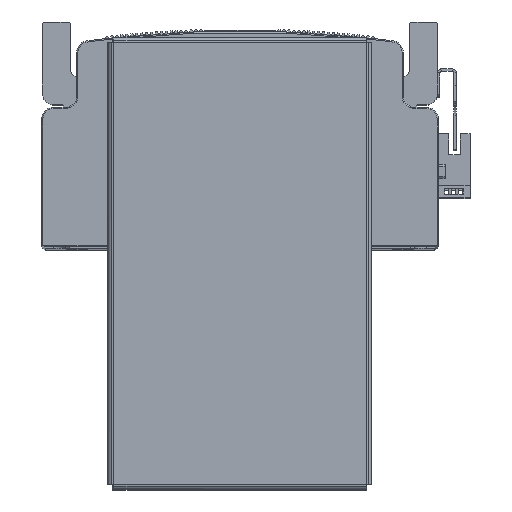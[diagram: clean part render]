
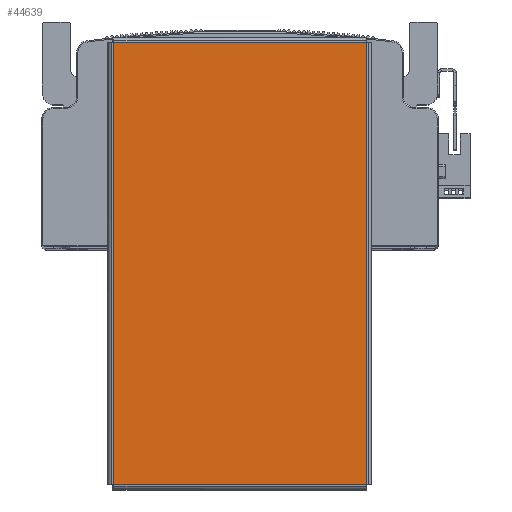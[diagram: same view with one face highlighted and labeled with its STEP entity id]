
A CAD part, top view. The second image highlights one B-rep face of the part: STEP entity #44639.
In plain terms, the highlighted planar face has unit normal (0, 0, 1) as drawn and (0, -1, 0) by its records, which use the part's own axes.
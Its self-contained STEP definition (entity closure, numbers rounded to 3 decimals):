
#1945 = EDGE_CURVE ( 'NONE', #63737, #63703, #42289, .T. ) ;
#1979 = EDGE_CURVE ( 'NONE', #63703, #63748, #42337, .T. ) ;
#1990 = EDGE_CURVE ( 'NONE', #63736, #63737, #42317, .T. ) ;
#2003 = EDGE_CURVE ( 'NONE', #63748, #63736, #42398, .T. ) ;
#5393 = CARTESIAN_POINT ( 'NONE',  ( 94.763, -1.5, 54.363 ) ) ;
#5405 = CARTESIAN_POINT ( 'NONE',  ( -94.763, -1.5, -54.363 ) ) ;
#5439 = CARTESIAN_POINT ( 'NONE',  ( 94.763, -1.5, -54.363 ) ) ;
#5448 = CARTESIAN_POINT ( 'NONE',  ( -94.763, -1.5, 54.363 ) ) ;
#6129 = AXIS2_PLACEMENT_3D ( 'NONE', #9191, #9165, #9161 ) ;
#7754 = CARTESIAN_POINT ( 'NONE',  ( 94.763, -1.5, -54.393 ) ) ;
#7776 = DIRECTION ( 'NONE',  ( 0., 0., 1. ) ) ;
#9161 = DIRECTION ( 'NONE',  ( 0., 0., 1. ) ) ;
#9165 = DIRECTION ( 'NONE',  ( 0., 1., 0. ) ) ;
#9176 = PLANE ( 'NONE',  #6129 ) ;
#9191 = CARTESIAN_POINT ( 'NONE',  ( 0., -1.5, 0. ) ) ;
#12818 = FACE_OUTER_BOUND ( 'NONE', #50659, .T. ) ;
#13689 = DIRECTION ( 'NONE',  ( -1., 0., 0. ) ) ;
#13692 = CARTESIAN_POINT ( 'NONE',  ( 94.793, -1.5, 54.363 ) ) ;
#13703 = DIRECTION ( 'NONE',  ( 1., 0., 0. ) ) ;
#13724 = CARTESIAN_POINT ( 'NONE',  ( -94.793, -1.5, -54.363 ) ) ;
#13756 = DIRECTION ( 'NONE',  ( 0., 0., -1. ) ) ;
#13812 = CARTESIAN_POINT ( 'NONE',  ( -94.763, -1.5, 54.393 ) ) ;
#40568 = ORIENTED_EDGE ( 'NONE', *, *, #1990, .T. ) ;
#40570 = ORIENTED_EDGE ( 'NONE', *, *, #1979, .T. ) ;
#40582 = ORIENTED_EDGE ( 'NONE', *, *, #2003, .T. ) ;
#40590 = ORIENTED_EDGE ( 'NONE', *, *, #1945, .T. ) ;
#42264 = VECTOR ( 'NONE', #7776, 1000. ) ;
#42289 = LINE ( 'NONE', #7754, #42264 ) ;
#42317 = LINE ( 'NONE', #13724, #42319 ) ;
#42319 = VECTOR ( 'NONE', #13703, 1000. ) ;
#42331 = VECTOR ( 'NONE', #13689, 1000. ) ;
#42337 = LINE ( 'NONE', #13692, #42331 ) ;
#42398 = LINE ( 'NONE', #13812, #42429 ) ;
#42429 = VECTOR ( 'NONE', #13756, 1000. ) ;
#44639 = ADVANCED_FACE ( 'NONE', ( #12818 ), #9176, .F. ) ;
#50659 = EDGE_LOOP ( 'NONE', ( #40570, #40582, #40568, #40590 ) ) ;
#63703 = VERTEX_POINT ( 'NONE', #5393 ) ;
#63736 = VERTEX_POINT ( 'NONE', #5405 ) ;
#63737 = VERTEX_POINT ( 'NONE', #5439 ) ;
#63748 = VERTEX_POINT ( 'NONE', #5448 ) ;
